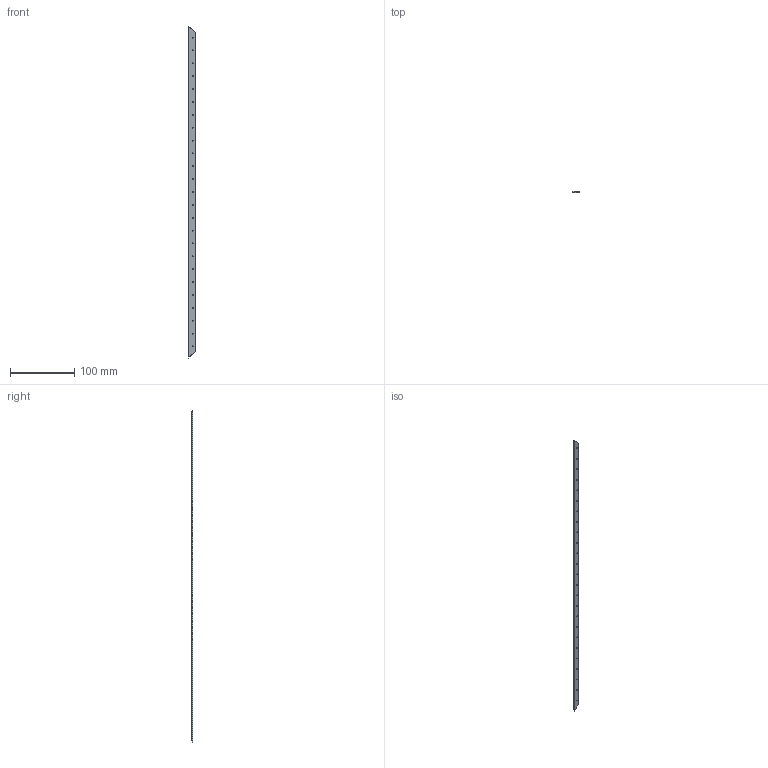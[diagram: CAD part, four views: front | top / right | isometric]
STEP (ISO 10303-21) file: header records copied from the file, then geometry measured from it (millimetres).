
FILE_DESCRIPTION (( 'STEP AP214' ), '1' );
FILE_NAME ('SC129.STEP', '2016-02-26T10:45:22', ( '' ), ( '' ), 'SwSTEP 2.0', 'SolidWorks 2012', '' );
FILE_SCHEMA (( 'AUTOMOTIVE_DESIGN' ));
Length unit declared in the file: millimetre
Products named in the file (1): SC129
Bounding box: 10 x 2 x 516 mm (x, y, z)
Volume: 10016.8 mm3; surface area: 12343.4 mm2
Topology: 1 solids, 1 shells, 58 faces, 166 edges, 110 vertices
Faces by surface type: cylinder 50, plane 8
Entity records: 2088 total; most frequent: DIRECTION 384, CARTESIAN_POINT 335, ORIENTED_EDGE 332, EDGE_CURVE 166, AXIS2_PLACEMENT_3D 159, VERTEX_POINT 110, EDGE_LOOP 108, CIRCLE 100
